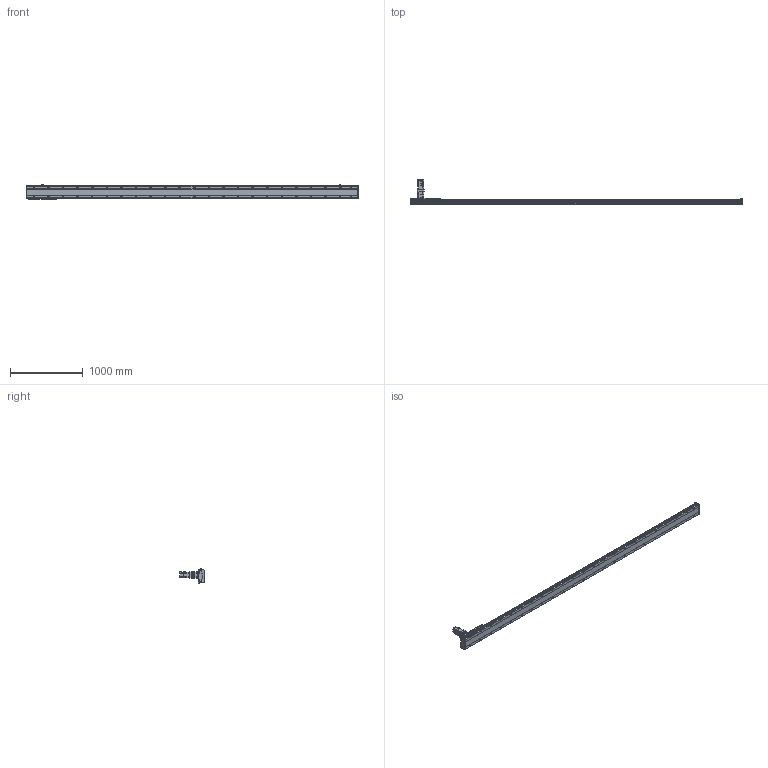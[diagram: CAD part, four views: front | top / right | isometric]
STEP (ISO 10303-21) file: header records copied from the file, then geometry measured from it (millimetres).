
FILE_DESCRIPTION(/* description */ ('STEP AP203'),/* implementation_level */ '2;1');
FILE_NAME(/* name */ 'SHS17A-L13-S4100-BC-T75-C1-N(0)',/* time_stamp */ '2023-03-27T08:58:59+02:00',/* author */ ('License CC BY-ND 4.0'),/* organization */ ('CADENAS'),/* preprocessor_version */ 'ST-DEVELOPER v19.3',/* originating_system */ 'PARTsolutions',/* authorisation */ ' ');
FILE_SCHEMA (('CONFIG_CONTROL_DESIGN'));
Length unit declared in the file: millimetre
Products named in the file (7): SHS17A-L13-S4100-BC-T75-C1-N(0); PSC140-sensor; SHS17A-S4100(0)_body2; T75-p1; SHS17A-S4100_body3; SHS17A-S4100-C1(0)_slider; SHS17A-S4100-C1(0)_body
Assembly tree (13 placements, depth 2):
  SHS17A-L13-S4100-BC-T75-C1-N(0)
    PSC140-sensor  x3
    SHS17A-S4100(0)_body2  x6
    T75-p1
    SHS17A-S4100_body3
    SHS17A-S4100-C1(0)_slider
    SHS17A-S4100-C1(0)_body
Bounding box: 4554 x 333.8 x 193.4 mm (x, y, z)
Volume: 30984827.8 mm3; surface area: 3547628.5 mm2
Topology: 13 solids, 13 shells, 2392 faces, 6106 edges, 3975 vertices
Faces by surface type: plane 1468, cylinder 821, cone 100, torus 3
Full cylindrical faces by diameter (mm): 2.8 x3, 4.134 x24, 4.5 x2, 4.6 x3, 4.917 x15, 5.5 x48, 6 x7, 6.5 x24, 6.647 x54, 6.8 x9, 8 x3, 8.5 x46, 10 x28, 11 x4, 14 x46, 22 x1, 24 x1, 24.2 x1, 28 x1, 28.2 x1, 28.8 x1, 29.8 x1, 48.542 x1, 68 x1, 70 x1, 78 x1, 80 x2
Entity records: 48682 total; most frequent: CARTESIAN_POINT 9778, DIRECTION 7873, ORIENTED_EDGE 7636, EDGE_CURVE 3818, AXIS2_PLACEMENT_3D 2816, VERTEX_POINT 2689, EDGE_LOOP 2285, FACE_BOUND 2285
